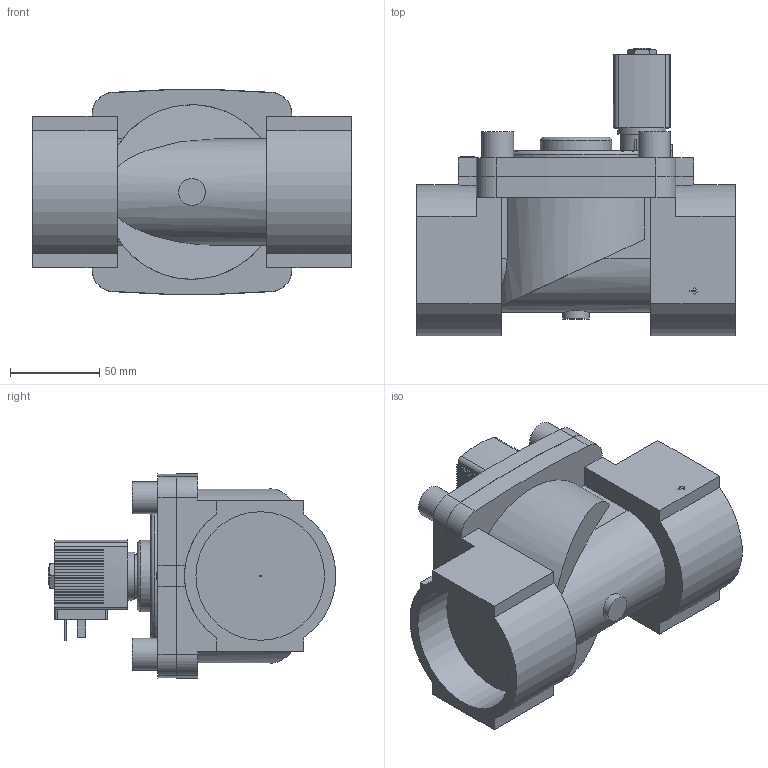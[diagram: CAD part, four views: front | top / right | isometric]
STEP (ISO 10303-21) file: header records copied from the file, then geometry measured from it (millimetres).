
FILE_DESCRIPTION(/* description */ ('STEP AP214'),/* implementation_level */ '2;1');
FILE_NAME(/* name */ '6281-298084-2_2-Way_Solenoid_Valve__Servo-assisted__General_Purpose',/* time_stamp */ '2024-09-09T10:10:26+02:00',/* author */ ('License CC BY-ND 4.0'),/* organization */ ('CADENAS'),/* preprocessor_version */ 'ST-DEVELOPER v19.3',/* originating_system */ 'PARTsolutions',/* authorisation */ ' ');
FILE_SCHEMA (('AUTOMOTIVE_DESIGN {1 0 10303 214 3 1 1}'));
Length unit declared in the file: millimetre
Products named in the file (4): 6281-298084-2/2-Way Solenoid Valve, Servo-assisted, General Purpose; 5281ev501MS2/2-Wege-Magnetventil mit Servomembran-Deckel 115 ; 5281ge-50 G2 1/2 MS; AC10ex-5OO-Plan-Coil
Assembly tree (3 placements, depth 2):
  6281-298084-2/2-Way Solenoid Valve, Servo-assisted, General Purpose
    5281ev501MS2/2-Wege-Magnetventil mit Servomembran-Deckel 115 
    5281ge-50 G2 1/2 MS
    AC10ex-5OO-Plan-Coil
Bounding box: 179 x 161.34 x 114.92 mm (x, y, z)
Volume: 1137924.5 mm3; surface area: 140687.2 mm2
Topology: 3 solids, 3 shells, 456 faces, 1286 edges, 856 vertices
Faces by surface type: plane 384, cylinder 61, cone 9, torus 2
Full cylindrical faces by diameter (mm): 1 x1, 2.013 x1, 6.8 x1, 9.74 x1, 15 x1, 18 x4, 27 x1, 40 x1, 72.226 x2
Entity records: 17343 total; most frequent: CARTESIAN_POINT 2664, ORIENTED_EDGE 2520, DIRECTION 2390, EDGE_CURVE 1260, LINE 1006, VECTOR 1006, VERTEX_POINT 847, AXIS2_PLACEMENT_3D 692
